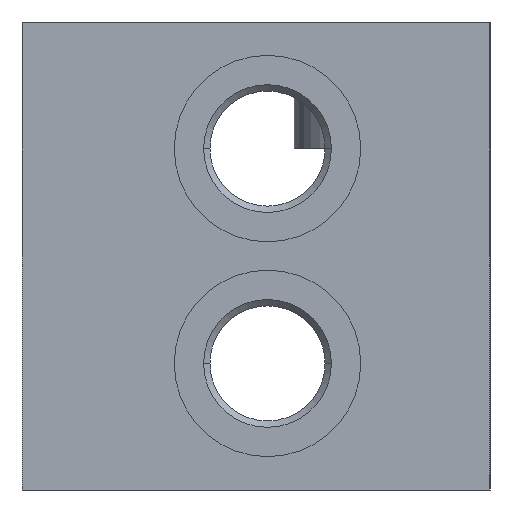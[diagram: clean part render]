
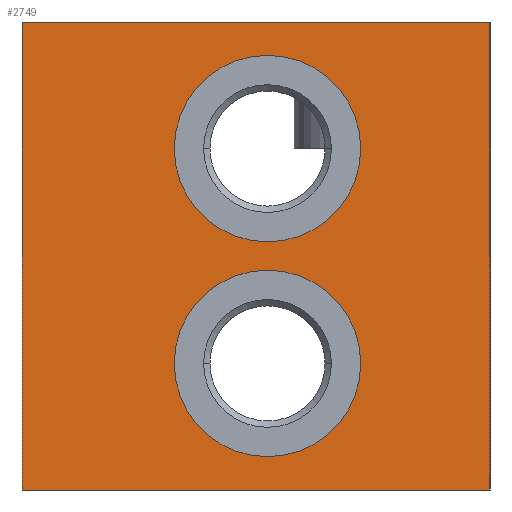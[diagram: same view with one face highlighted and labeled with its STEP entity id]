
A CAD part, left-side view. The second image highlights one B-rep face of the part: STEP entity #2749.
In plain terms, the highlighted planar face has unit normal (-1, 0, 0).
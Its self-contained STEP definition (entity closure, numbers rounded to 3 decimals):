
#25=DIRECTION('',(0.,-1.,0.));
#26=VECTOR('',#25,61.);
#27=CARTESIAN_POINT('',(0.,61.,0.));
#28=LINE('',#27,#26);
#77=DIRECTION('',(0.,0.,-1.));
#78=VECTOR('',#77,61.);
#79=CARTESIAN_POINT('',(0.,0.,0.));
#80=LINE('',#79,#78);
#381=DIRECTION('',(0.,0.,-1.));
#382=VECTOR('',#381,61.);
#383=CARTESIAN_POINT('',(0.,61.,0.));
#384=LINE('',#383,#382);
#385=CARTESIAN_POINT('',(0.,29.,-44.5));
#386=DIRECTION('',(1.,0.,0.));
#387=DIRECTION('',(0.,-1.,0.));
#388=AXIS2_PLACEMENT_3D('',#385,#386,#387);
#390=CARTESIAN_POINT('',(0.,29.,-44.5));
#391=DIRECTION('',(1.,0.,0.));
#392=DIRECTION('',(0.,1.,0.));
#393=AXIS2_PLACEMENT_3D('',#390,#391,#392);
#395=CARTESIAN_POINT('',(0.,29.,-16.5));
#396=DIRECTION('',(1.,0.,0.));
#397=DIRECTION('',(0.,-1.,0.));
#398=AXIS2_PLACEMENT_3D('',#395,#396,#397);
#400=CARTESIAN_POINT('',(0.,29.,-16.5));
#401=DIRECTION('',(1.,0.,0.));
#402=DIRECTION('',(0.,1.,0.));
#403=AXIS2_PLACEMENT_3D('',#400,#401,#402);
#417=DIRECTION('',(0.,-1.,0.));
#418=VECTOR('',#417,61.);
#419=CARTESIAN_POINT('',(0.,61.,-61.));
#420=LINE('',#419,#418);
#2076=CARTESIAN_POINT('',(0.,0.,0.));
#2078=VERTEX_POINT('',#2076);
#2082=CARTESIAN_POINT('',(0.,61.,0.));
#2083=VERTEX_POINT('',#2082);
#2084=CARTESIAN_POINT('',(0.,0.,-61.));
#2086=VERTEX_POINT('',#2084);
#2090=CARTESIAN_POINT('',(0.,61.,-61.));
#2091=VERTEX_POINT('',#2090);
#2104=CARTESIAN_POINT('',(0.,16.85,-44.5));
#2105=CARTESIAN_POINT('',(0.,41.15,-44.5));
#2106=VERTEX_POINT('',#2104);
#2107=VERTEX_POINT('',#2105);
#2120=CARTESIAN_POINT('',(0.,16.85,-16.5));
#2121=CARTESIAN_POINT('',(0.,41.15,-16.5));
#2122=VERTEX_POINT('',#2120);
#2123=VERTEX_POINT('',#2121);
#2725=CARTESIAN_POINT('',(0.,61.,0.));
#2726=DIRECTION('',(-1.,0.,0.));
#2727=DIRECTION('',(0.,-1.,0.));
#2728=AXIS2_PLACEMENT_3D('',#2725,#2726,#2727);
#2729=PLANE('',#2728);
#2730=ORIENTED_EDGE('',*,*,#2535,.T.);
#2731=ORIENTED_EDGE('',*,*,#2578,.T.);
#2733=ORIENTED_EDGE('',*,*,#2732,.F.);
#2734=ORIENTED_EDGE('',*,*,#2657,.F.);
#2735=EDGE_LOOP('',(#2730,#2731,#2733,#2734));
#2736=FACE_OUTER_BOUND('',#2735,.F.);
#2738=ORIENTED_EDGE('',*,*,#2737,.F.);
#2740=ORIENTED_EDGE('',*,*,#2739,.F.);
#2741=EDGE_LOOP('',(#2738,#2740));
#2742=FACE_BOUND('',#2741,.F.);
#2744=ORIENTED_EDGE('',*,*,#2743,.F.);
#2746=ORIENTED_EDGE('',*,*,#2745,.F.);
#2747=EDGE_LOOP('',(#2744,#2746));
#2748=FACE_BOUND('',#2747,.F.);
#389=CIRCLE('',#388,12.15);
#394=CIRCLE('',#393,12.15);
#399=CIRCLE('',#398,12.15);
#404=CIRCLE('',#403,12.15);
#2535=EDGE_CURVE('',#2083,#2078,#28,.T.);
#2578=EDGE_CURVE('',#2078,#2086,#80,.T.);
#2657=EDGE_CURVE('',#2083,#2091,#384,.T.);
#2732=EDGE_CURVE('',#2091,#2086,#420,.T.);
#2737=EDGE_CURVE('',#2106,#2107,#389,.T.);
#2739=EDGE_CURVE('',#2107,#2106,#394,.T.);
#2743=EDGE_CURVE('',#2122,#2123,#399,.T.);
#2745=EDGE_CURVE('',#2123,#2122,#404,.T.);
#2749=ADVANCED_FACE('',(#2736,#2742,#2748),#2729,.T.);
